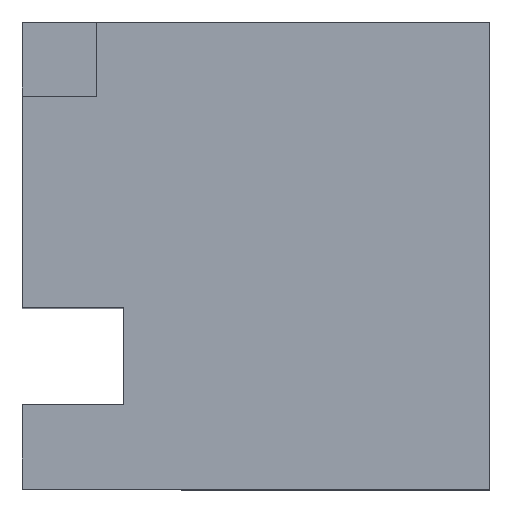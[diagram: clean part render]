
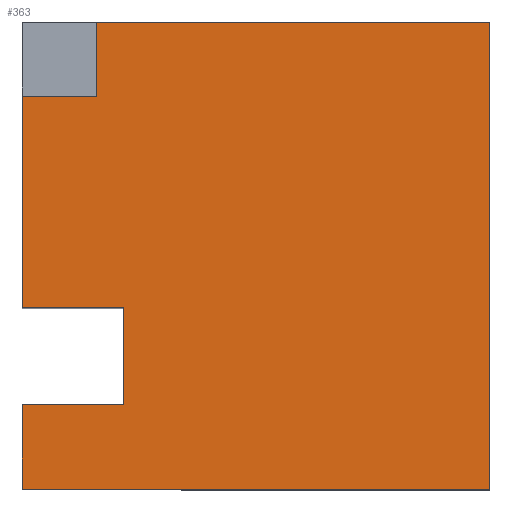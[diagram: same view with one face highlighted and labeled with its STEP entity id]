
A CAD part, top view. The second image highlights one B-rep face of the part: STEP entity #363.
In plain terms, the highlighted planar face has unit normal (0, 0, 1).
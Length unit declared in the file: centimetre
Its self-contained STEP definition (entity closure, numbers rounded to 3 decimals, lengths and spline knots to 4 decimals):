
#9 = VERTEX_POINT ( 'NONE', #776 ) ;
#12 = CARTESIAN_POINT ( 'NONE',  ( 0., 180.8926, 1000. ) ) ;
#26 = DIRECTION ( 'NONE',  ( 1., 0., 0. ) ) ;
#45 = VERTEX_POINT ( 'NONE', #509 ) ;
#48 = ORIENTED_EDGE ( 'NONE', *, *, #1205, .T. ) ;
#58 = VECTOR ( 'NONE', #628, 100. ) ;
#60 = CARTESIAN_POINT ( 'NONE',  ( 0., 1000., 1000. ) ) ;
#78 = VECTOR ( 'NONE', #554, 100. ) ;
#97 = CARTESIAN_POINT ( 'NONE',  ( 0., 387.8751, 1000. ) ) ;
#114 = VECTOR ( 'NONE', #638, 100. ) ;
#116 = VERTEX_POINT ( 'NONE', #1183 ) ;
#123 = ORIENTED_EDGE ( 'NONE', *, *, #177, .T. ) ;
#177 = EDGE_CURVE ( 'NONE', #1163, #894, #730, .T. ) ;
#212 = VERTEX_POINT ( 'NONE', #834 ) ;
#238 = PLANE ( 'NONE',  #950 ) ;
#247 = CARTESIAN_POINT ( 'NONE',  ( 217.3459, 387.8751, 1000. ) ) ;
#258 = DIRECTION ( 'NONE',  ( 0., 1., 0. ) ) ;
#259 = ORIENTED_EDGE ( 'NONE', *, *, #1246, .F. ) ;
#261 = LINE ( 'NONE', #1024, #1203 ) ;
#268 = CARTESIAN_POINT ( 'NONE',  ( 0., 0., 1000. ) ) ;
#276 = LINE ( 'NONE', #97, #1202 ) ;
#308 = CARTESIAN_POINT ( 'NONE',  ( 0., 840.3295, 1000. ) ) ;
#322 = ORIENTED_EDGE ( 'NONE', *, *, #649, .F. ) ;
#346 = DIRECTION ( 'NONE',  ( -1., 0., 0. ) ) ;
#348 = ORIENTED_EDGE ( 'NONE', *, *, #1040, .F. ) ;
#353 = CARTESIAN_POINT ( 'NONE',  ( 1000., 0., 1000. ) ) ;
#363 = ADVANCED_FACE ( 'NONE', ( #887 ), #238, .T. ) ;
#371 = LINE ( 'NONE', #1116, #58 ) ;
#441 = CARTESIAN_POINT ( 'NONE',  ( 158.4883, 1000., 1000. ) ) ;
#442 = EDGE_CURVE ( 'NONE', #116, #9, #495, .T. ) ;
#447 = LINE ( 'NONE', #60, #573 ) ;
#495 = LINE ( 'NONE', #12, #617 ) ;
#509 = CARTESIAN_POINT ( 'NONE',  ( 0., 387.8751, 1000. ) ) ;
#520 = ORIENTED_EDGE ( 'NONE', *, *, #442, .F. ) ;
#549 = LINE ( 'NONE', #812, #114 ) ;
#554 = DIRECTION ( 'NONE',  ( 1., 0., 0. ) ) ;
#573 = VECTOR ( 'NONE', #346, 100. ) ;
#593 = VECTOR ( 'NONE', #258, 100. ) ;
#605 = VERTEX_POINT ( 'NONE', #308 ) ;
#617 = VECTOR ( 'NONE', #1083, 100. ) ;
#628 = DIRECTION ( 'NONE',  ( 0., -1., 0. ) ) ;
#634 = ORIENTED_EDGE ( 'NONE', *, *, #1166, .T. ) ;
#638 = DIRECTION ( 'NONE',  ( 0., -1., 0. ) ) ;
#649 = EDGE_CURVE ( 'NONE', #9, #959, #744, .T. ) ;
#650 = CARTESIAN_POINT ( 'NONE',  ( 0., 840.3295, 1000. ) ) ;
#656 = DIRECTION ( 'NONE',  ( -1., 0., 0. ) ) ;
#709 = EDGE_CURVE ( 'NONE', #959, #45, #276, .T. ) ;
#730 = LINE ( 'NONE', #1111, #593 ) ;
#734 = LINE ( 'NONE', #1108, #1241 ) ;
#744 = LINE ( 'NONE', #1134, #1122 ) ;
#776 = CARTESIAN_POINT ( 'NONE',  ( 217.3459, 180.8926, 1000. ) ) ;
#778 = ORIENTED_EDGE ( 'NONE', *, *, #709, .F. ) ;
#812 = CARTESIAN_POINT ( 'NONE',  ( 0., 1000., 1000. ) ) ;
#831 = DIRECTION ( 'NONE',  ( 1., 0., 0. ) ) ;
#834 = CARTESIAN_POINT ( 'NONE',  ( 158.4883, 840.3295, 1000. ) ) ;
#874 = DIRECTION ( 'NONE',  ( 0., 0., 1. ) ) ;
#885 = ORIENTED_EDGE ( 'NONE', *, *, #1089, .T. ) ;
#887 = FACE_OUTER_BOUND ( 'NONE', #1001, .T. ) ;
#894 = VERTEX_POINT ( 'NONE', #1064 ) ;
#897 = CARTESIAN_POINT ( 'NONE',  ( 0., 0., 1000. ) ) ;
#950 = AXIS2_PLACEMENT_3D ( 'NONE', #897, #874, #26 ) ;
#959 = VERTEX_POINT ( 'NONE', #247 ) ;
#977 = ORIENTED_EDGE ( 'NONE', *, *, #1045, .T. ) ;
#1001 = EDGE_LOOP ( 'NONE', ( #348, #259, #634, #778, #322, #520, #977, #48, #123, #885 ) ) ;
#1024 = CARTESIAN_POINT ( 'NONE',  ( 158.4883, 840.3295, 1000. ) ) ;
#1029 = LINE ( 'NONE', #650, #78 ) ;
#1040 = EDGE_CURVE ( 'NONE', #212, #1081, #261, .T. ) ;
#1045 = EDGE_CURVE ( 'NONE', #116, #1192, #549, .T. ) ;
#1064 = CARTESIAN_POINT ( 'NONE',  ( 1000., 1000., 1000. ) ) ;
#1081 = VERTEX_POINT ( 'NONE', #441 ) ;
#1083 = DIRECTION ( 'NONE',  ( 1., 0., 0. ) ) ;
#1089 = EDGE_CURVE ( 'NONE', #894, #1081, #447, .T. ) ;
#1090 = DIRECTION ( 'NONE',  ( 0., 1., 0. ) ) ;
#1108 = CARTESIAN_POINT ( 'NONE',  ( 0., 0., 1000. ) ) ;
#1111 = CARTESIAN_POINT ( 'NONE',  ( 1000., 1000., 1000. ) ) ;
#1116 = CARTESIAN_POINT ( 'NONE',  ( 0., 1000., 1000. ) ) ;
#1122 = VECTOR ( 'NONE', #1222, 100. ) ;
#1134 = CARTESIAN_POINT ( 'NONE',  ( 217.3459, 180.8926, 1000. ) ) ;
#1163 = VERTEX_POINT ( 'NONE', #353 ) ;
#1166 = EDGE_CURVE ( 'NONE', #605, #45, #371, .T. ) ;
#1183 = CARTESIAN_POINT ( 'NONE',  ( 0., 180.8926, 1000. ) ) ;
#1192 = VERTEX_POINT ( 'NONE', #268 ) ;
#1202 = VECTOR ( 'NONE', #656, 100. ) ;
#1203 = VECTOR ( 'NONE', #1090, 100. ) ;
#1205 = EDGE_CURVE ( 'NONE', #1192, #1163, #734, .T. ) ;
#1222 = DIRECTION ( 'NONE',  ( 0., 1., 0. ) ) ;
#1241 = VECTOR ( 'NONE', #831, 100. ) ;
#1246 = EDGE_CURVE ( 'NONE', #605, #212, #1029, .T. ) ;
